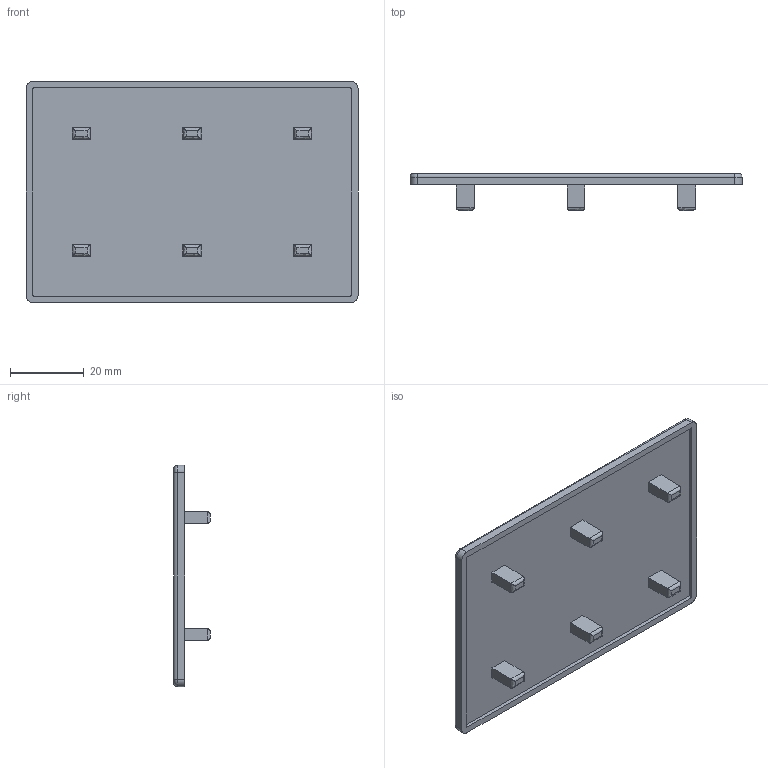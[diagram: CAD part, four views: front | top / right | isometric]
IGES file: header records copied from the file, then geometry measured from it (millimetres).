
Start section: SolidWorks IGES file using analytic representation for surfaces
Global section: file name: C:\Users\admin\Desktop\IGES\J3C69.igs; native system: SolidWorks 2014; preprocessor: SolidWorks 2014; author: admin_pc; date: 170524.165411; units: millimetre
Bounding box: 90 x 10 x 60 mm (x, y, z)
Surface area: 12560.6 mm2 (no closed solid volume)
Topology: 0 solids, 0 shells, 81 faces, 640 edges, 640 vertices
Faces by surface type: bspline 45, revolution 36
